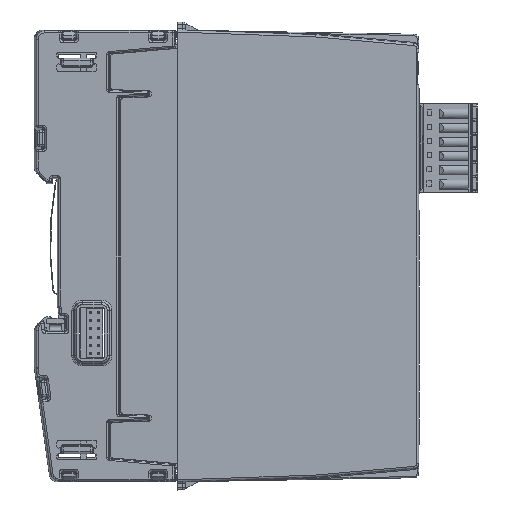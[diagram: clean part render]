
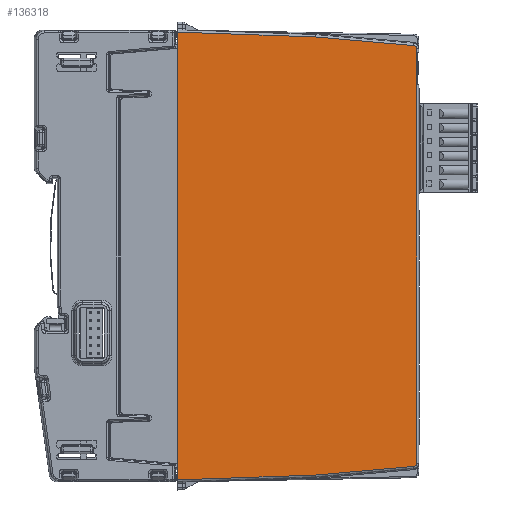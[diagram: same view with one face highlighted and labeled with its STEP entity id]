
A CAD part, left-side view. The second image highlights one B-rep face of the part: STEP entity #136318.
In plain terms, the highlighted planar face has unit normal (-1, -0.018, 0).
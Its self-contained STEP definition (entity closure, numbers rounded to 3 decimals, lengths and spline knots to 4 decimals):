
#4500=ELLIPSE('',#145820,0.0315,0.0315);
#4501=ELLIPSE('',#145821,0.0315,0.0315);
#7940=PLANE('',#145819);
#14062=FACE_OUTER_BOUND('',#21485,.T.);
#21485=EDGE_LOOP('',(#112881,#112882,#112883,#112884,#112885,#112886,#112887,
#112888,#112889,#112890));
#37620=LINE('',#226068,#51530);
#37839=LINE('',#227143,#51749);
#37840=LINE('',#227145,#51750);
#37841=LINE('',#227149,#51751);
#37842=LINE('',#227152,#51752);
#37843=LINE('',#227154,#51753);
#37844=LINE('',#227156,#51754);
#37845=LINE('',#227157,#51755);
#51530=VECTOR('',#173341,39.3701);
#51749=VECTOR('',#173728,39.3701);
#51750=VECTOR('',#173729,39.3701);
#51751=VECTOR('',#173732,39.3701);
#51752=VECTOR('',#173735,39.3701);
#51753=VECTOR('',#173736,39.3701);
#51754=VECTOR('',#173737,39.3701);
#51755=VECTOR('',#173738,39.3701);
#64086=VERTEX_POINT('',#226066);
#64087=VERTEX_POINT('',#226067);
#64298=VERTEX_POINT('',#227141);
#64299=VERTEX_POINT('',#227142);
#64300=VERTEX_POINT('',#227144);
#64301=VERTEX_POINT('',#227146);
#64302=VERTEX_POINT('',#227148);
#64303=VERTEX_POINT('',#227150);
#64304=VERTEX_POINT('',#227153);
#64305=VERTEX_POINT('',#227155);
#80798=EDGE_CURVE('',#64086,#64087,#37620,.T.);
#81102=EDGE_CURVE('',#64298,#64299,#37839,.T.);
#81103=EDGE_CURVE('',#64299,#64300,#37840,.T.);
#81104=EDGE_CURVE('',#64300,#64301,#4500,.T.);
#81105=EDGE_CURVE('',#64301,#64302,#37841,.T.);
#81106=EDGE_CURVE('',#64302,#64303,#4501,.T.);
#81107=EDGE_CURVE('',#64303,#64086,#37842,.T.);
#81108=EDGE_CURVE('',#64087,#64304,#37843,.T.);
#81109=EDGE_CURVE('',#64305,#64304,#37844,.T.);
#81110=EDGE_CURVE('',#64305,#64298,#37845,.T.);
#112881=ORIENTED_EDGE('',*,*,#81102,.T.);
#112882=ORIENTED_EDGE('',*,*,#81103,.T.);
#112883=ORIENTED_EDGE('',*,*,#81104,.T.);
#112884=ORIENTED_EDGE('',*,*,#81105,.T.);
#112885=ORIENTED_EDGE('',*,*,#81106,.T.);
#112886=ORIENTED_EDGE('',*,*,#81107,.T.);
#112887=ORIENTED_EDGE('',*,*,#80798,.T.);
#112888=ORIENTED_EDGE('',*,*,#81108,.T.);
#112889=ORIENTED_EDGE('',*,*,#81109,.F.);
#112890=ORIENTED_EDGE('',*,*,#81110,.T.);
#136318=ADVANCED_FACE('',(#14062),#7940,.T.);
#145819=AXIS2_PLACEMENT_3D('',#227140,#173726,#173727);
#145820=AXIS2_PLACEMENT_3D('',#227147,#173730,#173731);
#145821=AXIS2_PLACEMENT_3D('',#227151,#173733,#173734);
#173341=DIRECTION('',(-0.017,0.999,0.035));
#173726=DIRECTION('center_axis',(-1.,-0.017,
0.));
#173727=DIRECTION('ref_axis',(-0.017,1.,0.));
#173728=DIRECTION('',(0.017,-0.999,0.035));
#173729=DIRECTION('',(0.017,-0.996,0.087));
#173730=DIRECTION('center_axis',(-1.,-0.017,
0.));
#173731=DIRECTION('ref_axis',(0.017,-1.,0.));
#173732=DIRECTION('',(0.,0.,1.));
#173733=DIRECTION('center_axis',(-1.,-0.017,
0.));
#173734=DIRECTION('ref_axis',(0.017,-1.,0.));
#173735=DIRECTION('',(-0.017,0.996,0.087));
#173736=DIRECTION('',(0.,0.,-1.));
#173737=DIRECTION('',(0.,0.,1.));
#173738=DIRECTION('',(0.,0.,-1.));
#226066=CARTESIAN_POINT('',(0.0007,-2.2205,0.0616));
#226067=CARTESIAN_POINT('',(-0.0227,-0.8827,0.1083));
#226068=CARTESIAN_POINT('',(-0.0282,-0.5654,0.1194));
#227140=CARTESIAN_POINT('Origin',(-0.0296,-0.489,
-2.0669));
#227141=CARTESIAN_POINT('',(-0.0227,-0.8827,-4.2421));
#227142=CARTESIAN_POINT('',(0.0007,-2.2205,-4.1954));
#227143=CARTESIAN_POINT('',(-0.0282,-0.5654,-4.2532));
#227144=CARTESIAN_POINT('',(0.0174,-3.1772,-4.1117));
#227145=CARTESIAN_POINT('',(-0.0261,-0.6869,-4.3296));
#227146=CARTESIAN_POINT('',(0.0179,-3.2059,-4.0803));
#227147=CARTESIAN_POINT('Origin',(0.0173,-3.1744,
-4.0803));
#227148=CARTESIAN_POINT('',(0.0179,-3.2059,-0.0535));
#227149=CARTESIAN_POINT('',(0.0179,-3.2059,-0.0535));
#227150=CARTESIAN_POINT('',(0.0174,-3.1772,-0.0221));
#227151=CARTESIAN_POINT('Origin',(0.0173,-3.1744,
-0.0535));
#227152=CARTESIAN_POINT('',(-0.0261,-0.6869,0.1957));
#227153=CARTESIAN_POINT('',(-0.0227,-0.8827,-0.0312));
#227154=CARTESIAN_POINT('',(-0.0227,-0.8827,0.128));
#227155=CARTESIAN_POINT('',(-0.0227,-0.8827,-4.1027));
#227156=CARTESIAN_POINT('',(-0.0227,-0.8827,-7.5932));
#227157=CARTESIAN_POINT('',(-0.0227,-0.8827,0.128));
